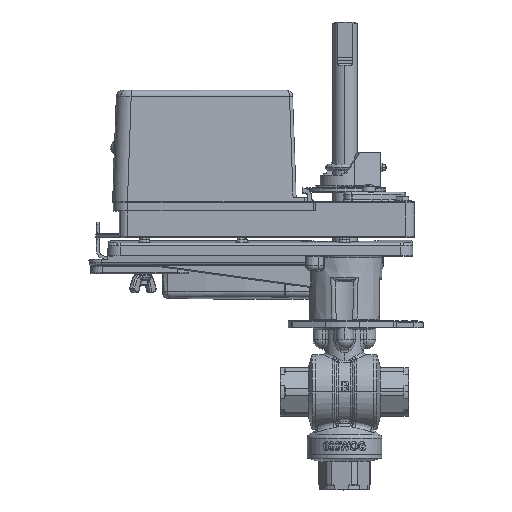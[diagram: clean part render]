
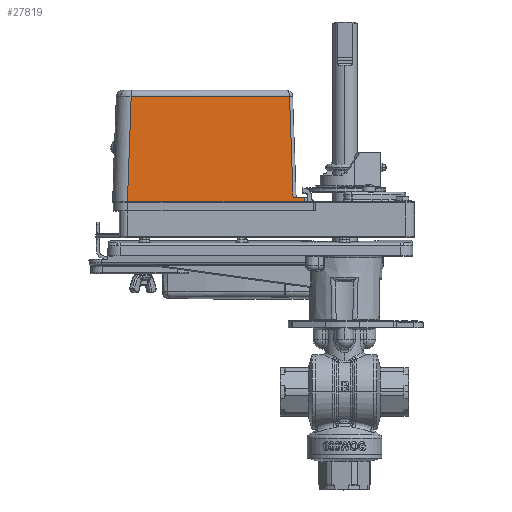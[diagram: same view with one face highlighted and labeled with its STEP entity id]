
A CAD part, top view. The second image highlights one B-rep face of the part: STEP entity #27819.
In plain terms, the highlighted planar face has unit normal (0.002, 0.035, 0.999).
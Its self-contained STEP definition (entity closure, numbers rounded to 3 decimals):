
#1573 = DIRECTION ( 'NONE',  ( -0.035, -0.999, 0.035 ) ) ;
#1671 = EDGE_LOOP ( 'NONE', ( #72502, #7528, #48807, #41681, #16847, #7725 ) ) ;
#4343 = CARTESIAN_POINT ( 'NONE',  ( -7.662, 140.178, 92.608 ) ) ;
#6073 = EDGE_CURVE ( 'NONE', #60078, #21213, #29329, .T. ) ;
#6299 = LINE ( 'NONE', #56290, #60992 ) ;
#7528 = ORIENTED_EDGE ( 'NONE', *, *, #32406, .F. ) ;
#7725 = ORIENTED_EDGE ( 'NONE', *, *, #57085, .T. ) ;
#9549 = EDGE_CURVE ( 'NONE', #54032, #45891, #80536, .T. ) ;
#9574 = LINE ( 'NONE', #22517, #34073 ) ;
#9946 = EDGE_CURVE ( 'NONE', #21213, #34782, #9574, .T. ) ;
#10088 = DIRECTION ( 'NONE',  ( 1., 0., -0.002 ) ) ;
#10334 = DIRECTION ( 'NONE',  ( 0.002, 0.035, 0.999 ) ) ;
#14228 = EDGE_CURVE ( 'NONE', #39625, #60078, #19403, .T. ) ;
#15529 = CARTESIAN_POINT ( 'NONE',  ( -7.651, 139.865, 92.619 ) ) ;
#15593 = DIRECTION ( 'NONE',  ( -0.035, 0.999, -0.035 ) ) ;
#16847 = ORIENTED_EDGE ( 'NONE', *, *, #9946, .T. ) ;
#17140 = CARTESIAN_POINT ( 'NONE',  ( -1.72, 139.865, 92.609 ) ) ;
#19403 = LINE ( 'NONE', #64416, #71687 ) ;
#19800 = DIRECTION ( 'NONE',  ( -1., 0., 0.002 ) ) ;
#21213 = VERTEX_POINT ( 'NONE', #64001 ) ;
#22517 = CARTESIAN_POINT ( 'NONE',  ( -101.482, 192.427, 90.941 ) ) ;
#23844 = CARTESIAN_POINT ( 'NONE',  ( -101.479, 137.325, 92.865 ) ) ;
#24446 = VECTOR ( 'NONE', #15593, 1000. ) ;
#25345 = LINE ( 'NONE', #77408, #54793 ) ;
#27819 = ADVANCED_FACE ( 'NONE', ( #49093 ), #74521, .T. ) ;
#29329 = LINE ( 'NONE', #4343, #24446 ) ;
#32406 = EDGE_CURVE ( 'NONE', #39625, #45891, #6299, .T. ) ;
#34073 = VECTOR ( 'NONE', #49156, 1000. ) ;
#34173 = CARTESIAN_POINT ( 'NONE',  ( -93.864, 137.325, 92.852 ) ) ;
#34782 = VERTEX_POINT ( 'NONE', #75561 ) ;
#35369 = AXIS2_PLACEMENT_3D ( 'NONE', #42866, #10334, #35755 ) ;
#35755 = DIRECTION ( 'NONE',  ( 0., 0.999, -0.035 ) ) ;
#39625 = VERTEX_POINT ( 'NONE', #17140 ) ;
#41681 = ORIENTED_EDGE ( 'NONE', *, *, #6073, .T. ) ;
#42866 = CARTESIAN_POINT ( 'NONE',  ( -101.479, 137.325, 92.865 ) ) ;
#43372 = VECTOR ( 'NONE', #10088, 1000. ) ;
#45891 = VERTEX_POINT ( 'NONE', #75152 ) ;
#48807 = ORIENTED_EDGE ( 'NONE', *, *, #14228, .T. ) ;
#49093 = FACE_OUTER_BOUND ( 'NONE', #1671, .T. ) ;
#49156 = DIRECTION ( 'NONE',  ( -1., 0., 0.002 ) ) ;
#54032 = VERTEX_POINT ( 'NONE', #34173 ) ;
#54793 = VECTOR ( 'NONE', #1573, 1000. ) ;
#56290 = CARTESIAN_POINT ( 'NONE',  ( -1.72, 137.325, 92.697 ) ) ;
#57085 = EDGE_CURVE ( 'NONE', #34782, #54032, #25345, .T. ) ;
#60078 = VERTEX_POINT ( 'NONE', #15529 ) ;
#60992 = VECTOR ( 'NONE', #75468, 1000. ) ;
#64001 = CARTESIAN_POINT ( 'NONE',  ( -9.489, 192.427, 90.786 ) ) ;
#64416 = CARTESIAN_POINT ( 'NONE',  ( -1.722, 139.865, 92.609 ) ) ;
#71687 = VECTOR ( 'NONE', #19800, 1000. ) ;
#72502 = ORIENTED_EDGE ( 'NONE', *, *, #9549, .T. ) ;
#74521 = PLANE ( 'NONE',  #35369 ) ;
#75152 = CARTESIAN_POINT ( 'NONE',  ( -1.72, 137.325, 92.697 ) ) ;
#75468 = DIRECTION ( 'NONE',  ( 0., -0.999, 0.035 ) ) ;
#75561 = CARTESIAN_POINT ( 'NONE',  ( -91.943, 192.427, 90.925 ) ) ;
#77408 = CARTESIAN_POINT ( 'NONE',  ( -93.873, 137.06, 92.862 ) ) ;
#80536 = LINE ( 'NONE', #23844, #43372 ) ;
